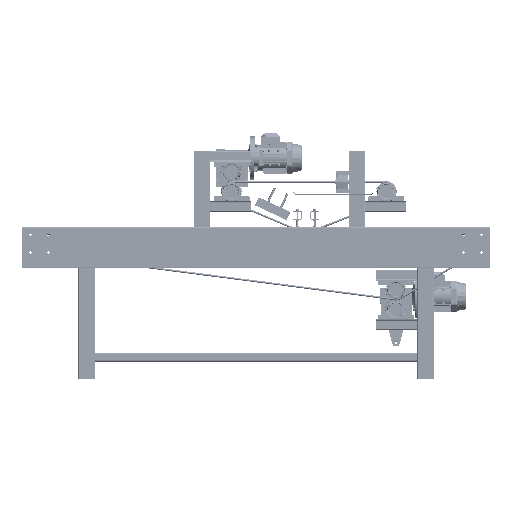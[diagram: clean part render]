
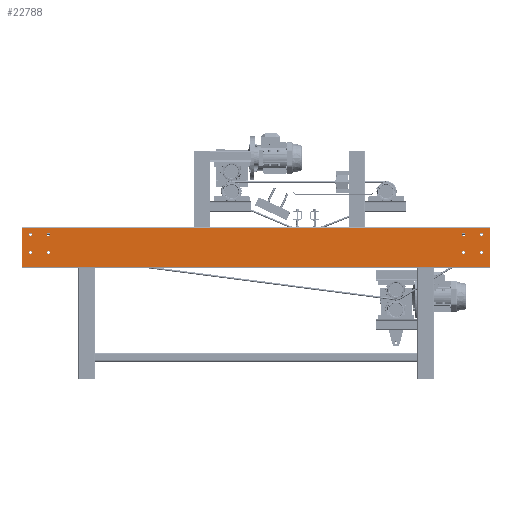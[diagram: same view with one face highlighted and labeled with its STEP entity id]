
A CAD part, top view. The second image highlights one B-rep face of the part: STEP entity #22788.
In plain terms, the highlighted planar face has unit normal (0, 0, 1).
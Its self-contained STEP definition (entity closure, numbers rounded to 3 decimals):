
#12349=PLANE('',#114214);
#13494=FACE_BOUND('',#35621,.T.);
#13495=FACE_BOUND('',#35622,.T.);
#13496=FACE_BOUND('',#35623,.T.);
#13497=FACE_BOUND('',#35624,.T.);
#13498=FACE_BOUND('',#35625,.T.);
#13499=FACE_BOUND('',#35626,.T.);
#13500=FACE_BOUND('',#35627,.T.);
#13501=FACE_BOUND('',#35628,.T.);
#13502=FACE_BOUND('',#35629,.T.);
#22788=ADVANCED_FACE('',(#13494,#13495,#13496,#13497,#13498,#13499,#13500,
#13501,#13502),#12349,.T.);
#35621=EDGE_LOOP('',(#73877,#73878));
#35622=EDGE_LOOP('',(#73879,#73880));
#35623=EDGE_LOOP('',(#73881,#73882));
#35624=EDGE_LOOP('',(#73883,#73884));
#35625=EDGE_LOOP('',(#73885,#73886));
#35626=EDGE_LOOP('',(#73887,#73888));
#35627=EDGE_LOOP('',(#73889,#73890));
#35628=EDGE_LOOP('',(#73891,#73892));
#35629=EDGE_LOOP('',(#73893,#73894,#73895,#73896));
#42478=LINE('',#194491,#49260);
#42479=LINE('',#194494,#49261);
#42480=LINE('',#194496,#49262);
#42481=LINE('',#194498,#49263);
#49260=VECTOR('',#140731,1.);
#49261=VECTOR('',#140732,1.);
#49262=VECTOR('',#140733,1.);
#49263=VECTOR('',#140734,1.);
#73877=ORIENTED_EDGE('',*,*,#98071,.F.);
#73878=ORIENTED_EDGE('',*,*,#98017,.F.);
#73879=ORIENTED_EDGE('',*,*,#98072,.F.);
#73880=ORIENTED_EDGE('',*,*,#98021,.F.);
#73881=ORIENTED_EDGE('',*,*,#98073,.F.);
#73882=ORIENTED_EDGE('',*,*,#98025,.F.);
#73883=ORIENTED_EDGE('',*,*,#98074,.F.);
#73884=ORIENTED_EDGE('',*,*,#98029,.F.);
#73885=ORIENTED_EDGE('',*,*,#98075,.F.);
#73886=ORIENTED_EDGE('',*,*,#98033,.F.);
#73887=ORIENTED_EDGE('',*,*,#98076,.F.);
#73888=ORIENTED_EDGE('',*,*,#98037,.F.);
#73889=ORIENTED_EDGE('',*,*,#98077,.F.);
#73890=ORIENTED_EDGE('',*,*,#98041,.F.);
#73891=ORIENTED_EDGE('',*,*,#98078,.F.);
#73892=ORIENTED_EDGE('',*,*,#98045,.F.);
#73893=ORIENTED_EDGE('',*,*,#98079,.T.);
#73894=ORIENTED_EDGE('',*,*,#98080,.T.);
#73895=ORIENTED_EDGE('',*,*,#98081,.T.);
#73896=ORIENTED_EDGE('',*,*,#98082,.T.);
#84958=VERTEX_POINT('',#194374);
#84959=VERTEX_POINT('',#194376);
#84962=VERTEX_POINT('',#194383);
#84963=VERTEX_POINT('',#194385);
#84966=VERTEX_POINT('',#194392);
#84967=VERTEX_POINT('',#194394);
#84970=VERTEX_POINT('',#194401);
#84971=VERTEX_POINT('',#194403);
#84974=VERTEX_POINT('',#194410);
#84975=VERTEX_POINT('',#194412);
#84978=VERTEX_POINT('',#194419);
#84979=VERTEX_POINT('',#194421);
#84982=VERTEX_POINT('',#194428);
#84983=VERTEX_POINT('',#194430);
#84986=VERTEX_POINT('',#194437);
#84987=VERTEX_POINT('',#194439);
#85000=VERTEX_POINT('',#194492);
#85001=VERTEX_POINT('',#194493);
#85002=VERTEX_POINT('',#194495);
#85003=VERTEX_POINT('',#194497);
#98017=EDGE_CURVE('',#84958,#84959,#104054,.T.);
#98021=EDGE_CURVE('',#84962,#84963,#104056,.T.);
#98025=EDGE_CURVE('',#84966,#84967,#104058,.T.);
#98029=EDGE_CURVE('',#84970,#84971,#104060,.T.);
#98033=EDGE_CURVE('',#84974,#84975,#104062,.T.);
#98037=EDGE_CURVE('',#84978,#84979,#104064,.T.);
#98041=EDGE_CURVE('',#84982,#84983,#104066,.T.);
#98045=EDGE_CURVE('',#84986,#84987,#104068,.T.);
#98071=EDGE_CURVE('',#84959,#84958,#104077,.T.);
#98072=EDGE_CURVE('',#84963,#84962,#104078,.T.);
#98073=EDGE_CURVE('',#84967,#84966,#104079,.T.);
#98074=EDGE_CURVE('',#84971,#84970,#104080,.T.);
#98075=EDGE_CURVE('',#84975,#84974,#104081,.T.);
#98076=EDGE_CURVE('',#84979,#84978,#104082,.T.);
#98077=EDGE_CURVE('',#84983,#84982,#104083,.T.);
#98078=EDGE_CURVE('',#84987,#84986,#104084,.T.);
#98079=EDGE_CURVE('',#85000,#85001,#42478,.T.);
#98080=EDGE_CURVE('',#85001,#85002,#42479,.T.);
#98081=EDGE_CURVE('',#85002,#85003,#42480,.T.);
#98082=EDGE_CURVE('',#85003,#85000,#42481,.T.);
#104054=CIRCLE('',#114170,8.);
#104056=CIRCLE('',#114173,8.);
#104058=CIRCLE('',#114176,8.);
#104060=CIRCLE('',#114179,8.);
#104062=CIRCLE('',#114182,8.);
#104064=CIRCLE('',#114185,8.);
#104066=CIRCLE('',#114188,8.);
#104068=CIRCLE('',#114191,8.);
#104077=CIRCLE('',#114206,8.);
#104078=CIRCLE('',#114207,8.);
#104079=CIRCLE('',#114208,8.);
#104080=CIRCLE('',#114209,8.);
#104081=CIRCLE('',#114210,8.);
#104082=CIRCLE('',#114211,8.);
#104083=CIRCLE('',#114212,8.);
#104084=CIRCLE('',#114213,8.);
#114170=AXIS2_PLACEMENT_3D('',#194375,#140612,#140613);
#114173=AXIS2_PLACEMENT_3D('',#194384,#140620,#140621);
#114176=AXIS2_PLACEMENT_3D('',#194393,#140628,#140629);
#114179=AXIS2_PLACEMENT_3D('',#194402,#140636,#140637);
#114182=AXIS2_PLACEMENT_3D('',#194411,#140644,#140645);
#114185=AXIS2_PLACEMENT_3D('',#194420,#140652,#140653);
#114188=AXIS2_PLACEMENT_3D('',#194429,#140660,#140661);
#114191=AXIS2_PLACEMENT_3D('',#194438,#140668,#140669);
#114206=AXIS2_PLACEMENT_3D('',#194483,#140715,#140716);
#114207=AXIS2_PLACEMENT_3D('',#194484,#140717,#140718);
#114208=AXIS2_PLACEMENT_3D('',#194485,#140719,#140720);
#114209=AXIS2_PLACEMENT_3D('',#194486,#140721,#140722);
#114210=AXIS2_PLACEMENT_3D('',#194487,#140723,#140724);
#114211=AXIS2_PLACEMENT_3D('',#194488,#140725,#140726);
#114212=AXIS2_PLACEMENT_3D('',#194489,#140727,#140728);
#114213=AXIS2_PLACEMENT_3D('',#194490,#140729,#140730);
#114214=AXIS2_PLACEMENT_3D('',#194499,#140735,#140736);
#140612=DIRECTION('',(0.,0.,1.));
#140613=DIRECTION('',(1.,0.,0.));
#140620=DIRECTION('',(0.,0.,1.));
#140621=DIRECTION('',(1.,0.,0.));
#140628=DIRECTION('',(0.,0.,1.));
#140629=DIRECTION('',(1.,0.,0.));
#140636=DIRECTION('',(0.,0.,1.));
#140637=DIRECTION('',(1.,0.,0.));
#140644=DIRECTION('',(0.,0.,1.));
#140645=DIRECTION('',(1.,0.,0.));
#140652=DIRECTION('',(0.,0.,1.));
#140653=DIRECTION('',(1.,0.,0.));
#140660=DIRECTION('',(0.,0.,1.));
#140661=DIRECTION('',(1.,0.,0.));
#140668=DIRECTION('',(0.,0.,1.));
#140669=DIRECTION('',(1.,0.,0.));
#140715=DIRECTION('',(0.,0.,1.));
#140716=DIRECTION('',(1.,0.,0.));
#140717=DIRECTION('',(0.,0.,1.));
#140718=DIRECTION('',(1.,0.,0.));
#140719=DIRECTION('',(0.,0.,1.));
#140720=DIRECTION('',(1.,0.,0.));
#140721=DIRECTION('',(0.,0.,1.));
#140722=DIRECTION('',(1.,0.,0.));
#140723=DIRECTION('',(0.,0.,1.));
#140724=DIRECTION('',(1.,0.,0.));
#140725=DIRECTION('',(0.,0.,1.));
#140726=DIRECTION('',(1.,0.,0.));
#140727=DIRECTION('',(0.,0.,1.));
#140728=DIRECTION('',(1.,0.,0.));
#140729=DIRECTION('',(0.,0.,1.));
#140730=DIRECTION('',(1.,0.,0.));
#140731=DIRECTION('',(0.,1.,0.));
#140732=DIRECTION('',(-1.,0.,0.));
#140733=DIRECTION('',(0.,-1.,0.));
#140734=DIRECTION('',(1.,0.,0.));
#140735=DIRECTION('',(0.,0.,1.));
#140736=DIRECTION('',(-1.,0.,0.));
#194374=CARTESIAN_POINT('',(950.5,565.5,22.5));
#194375=CARTESIAN_POINT('',(958.5,565.5,22.5));
#194376=CARTESIAN_POINT('',(966.5,565.5,22.5));
#194383=CARTESIAN_POINT('',(950.5,482.5,22.5));
#194384=CARTESIAN_POINT('',(958.5,482.5,22.5));
#194385=CARTESIAN_POINT('',(966.5,482.5,22.5));
#194392=CARTESIAN_POINT('',(1033.5,482.5,22.5));
#194393=CARTESIAN_POINT('',(1041.5,482.5,22.5));
#194394=CARTESIAN_POINT('',(1049.5,482.5,22.5));
#194401=CARTESIAN_POINT('',(1033.5,565.5,22.5));
#194402=CARTESIAN_POINT('',(1041.5,565.5,22.5));
#194403=CARTESIAN_POINT('',(1049.5,565.5,22.5));
#194410=CARTESIAN_POINT('',(-1049.5,565.5,22.5));
#194411=CARTESIAN_POINT('',(-1041.5,565.5,22.5));
#194412=CARTESIAN_POINT('',(-1033.5,565.5,22.5));
#194419=CARTESIAN_POINT('',(-1049.5,482.5,22.5));
#194420=CARTESIAN_POINT('',(-1041.5,482.5,22.5));
#194421=CARTESIAN_POINT('',(-1033.5,482.5,22.5));
#194428=CARTESIAN_POINT('',(-966.5,482.5,22.5));
#194429=CARTESIAN_POINT('',(-958.5,482.5,22.5));
#194430=CARTESIAN_POINT('',(-950.5,482.5,22.5));
#194437=CARTESIAN_POINT('',(-966.5,565.5,22.5));
#194438=CARTESIAN_POINT('',(-958.5,565.5,22.5));
#194439=CARTESIAN_POINT('',(-950.5,565.5,22.5));
#194483=CARTESIAN_POINT('',(958.5,565.5,22.5));
#194484=CARTESIAN_POINT('',(958.5,482.5,22.5));
#194485=CARTESIAN_POINT('',(1041.5,482.5,22.5));
#194486=CARTESIAN_POINT('',(1041.5,565.5,22.5));
#194487=CARTESIAN_POINT('',(-1041.5,565.5,22.5));
#194488=CARTESIAN_POINT('',(-1041.5,482.5,22.5));
#194489=CARTESIAN_POINT('',(-958.5,482.5,22.5));
#194490=CARTESIAN_POINT('',(-958.5,565.5,22.5));
#194491=CARTESIAN_POINT('',(1080.,600.,22.5));
#194492=CARTESIAN_POINT('',(1080.,414.,22.5));
#194493=CARTESIAN_POINT('',(1080.,596.,22.5));
#194494=CARTESIAN_POINT('',(1080.,596.,22.5));
#194495=CARTESIAN_POINT('',(-1080.,596.,22.5));
#194496=CARTESIAN_POINT('',(-1080.,600.,22.5));
#194497=CARTESIAN_POINT('',(-1080.,414.,22.5));
#194498=CARTESIAN_POINT('',(-1080.,414.,22.5));
#194499=CARTESIAN_POINT('',(0.,0.,22.5));
